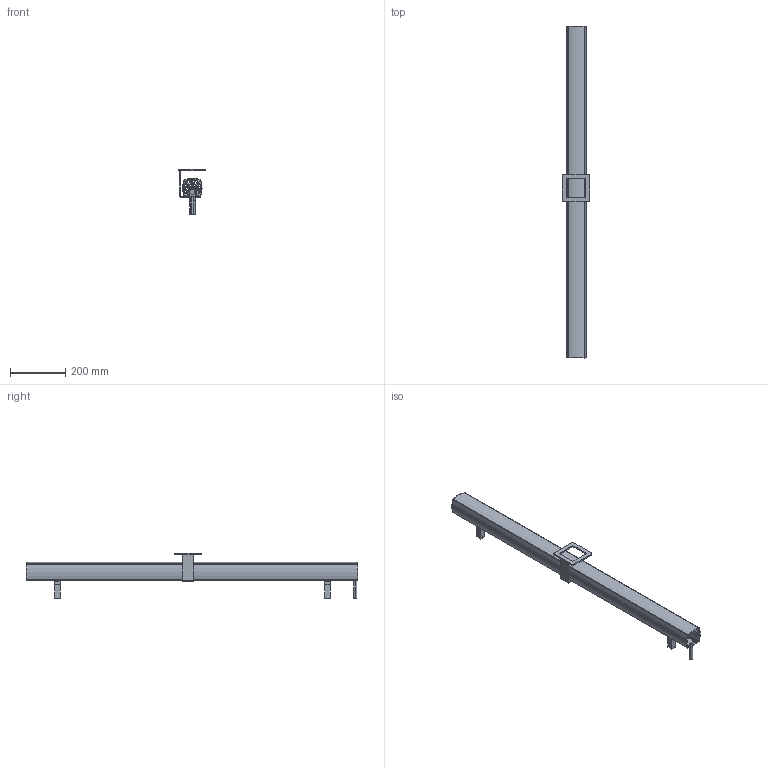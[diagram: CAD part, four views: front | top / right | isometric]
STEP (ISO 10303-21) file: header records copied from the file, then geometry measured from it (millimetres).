
FILE_DESCRIPTION (( 'STEP AP214' ), '1' );
FILE_NAME ('VESTA SINGLE.STEP', '2020-08-24T05:21:42', ( 'termosan' ), ( '' ), 'SwSTEP 2.0', 'SolidWorks 2009', '' );
FILE_SCHEMA (( 'AUTOMOTIVE_DESIGN' ));
Length unit declared in the file: millimetre
Products named in the file (10): VESTA SINGLE; A. ZAGA GÖVDE; OTTO SINGLE-ASKI; VESTA SINGLE SAC KAPAK; vesta KAPAK_10608009; VESTA SINGLE TOWEL HOLDER MONTAJ; VESTA SINGLE TOWEL HOLDER 烰 SAC; VESTA SINGLE TOWEL HOLDER L B軴逭; K嵨 晸嵣 BORU
Assembly tree (11 placements, depth 3):
  VESTA SINGLE
    K嵨 晸嵣 BORU
    vesta KAPAK_10608009
    VESTA SINGLE SAC KAPAK
    OTTO SINGLE-ASKI  x2
    VESTA SINGLE TOWEL HOLDER MONTAJ
      VESTA SINGLE TOWEL HOLDER L B軴逭
      VESTA SINGLE TOWEL HOLDER 烰 SAC
    A. ZAGA GÖVDE  x2
    VESTA SINGLE
Bounding box: 100 x 1199 x 163.9 mm (x, y, z)
Volume: 1053882.5 mm3; surface area: 1081512.7 mm2
Topology: 13 solids, 13 shells, 574 faces, 1520 edges, 976 vertices
Faces by surface type: cylinder 205, plane 197, bspline 112, cone 38, torus 22
Entity records: 25953 total; most frequent: CARTESIAN_POINT 12909, ORIENTED_EDGE 2808, DIRECTION 2380, EDGE_CURVE 1404, VERTEX_POINT 900, AXIS2_PLACEMENT_3D 892, LINE 596, VECTOR 596
